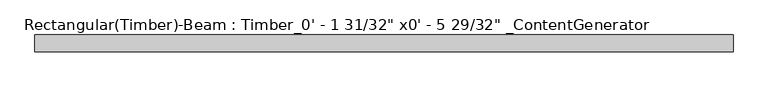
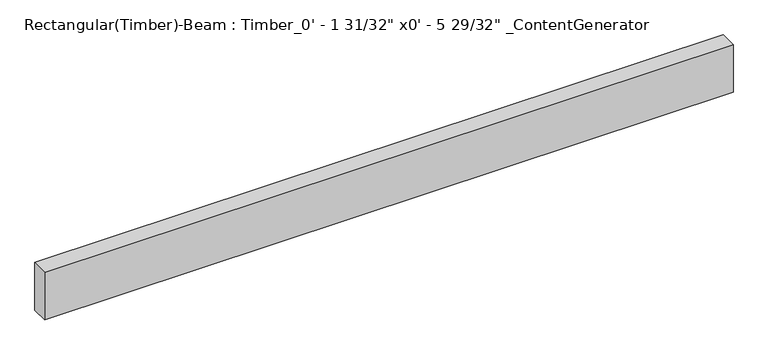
"""IFC4 building model written with IfcOpenShell, lengths in millimetres: beam geometry."""

from ifc_helpers import new_model, si_unit, frame, origin, place, context, project, spatial, polyline, outline, extrude, source, transform, mapped, element, save


def beam_a0387a4f(model_context):
    return source(origin(), model_context, "Body", "SweptSolid", [
        extrude(outline(polyline([(1042.2659716, 25.4), (1042.2659716, -25.4), (-1042.2659716, -25.4), (-1042.2659716, 25.4), (1042.2659716, 25.4)])), frame((0.0, 0.0, -76.2), z_axis=(0.0, 0.0, 1.0), x_axis=(1.0, 0.0, 0.0)), (0.0, 0.0, 1.0), 152.4),
    ])


if __name__ == "__main__":
    model = new_model("IFC4")
    model_context = context("Model", 3, world=origin())
    ifc_project = project(units=[si_unit("LENGTHUNIT", "METRE", prefix="MILLI")], contexts=[model_context])
    site = spatial("IfcSite", under=ifc_project)
    building = spatial("IfcBuilding", under=site)
    placement = place(None, origin())
    beam_shape = beam_a0387a4f(model_context)
    element("IfcBeam", 1, ObjectType="Rectangular(Timber)-Beam : Timber_0' - 1 31/32\" x0' - 5 29/32\" _ContentGenerator", at=placement, inside=building, context=model_context, shape_type="MappedRepresentation", body=[
        mapped(beam_shape, transform((0.0, 0.0, 0.0), x_axis=(1.0, 0.0, 0.0), y_axis=(0.0, 1.0, 0.0), z_axis=(0.0, 0.0, 1.0))),
    ])
    save(model, "model.ifc")
